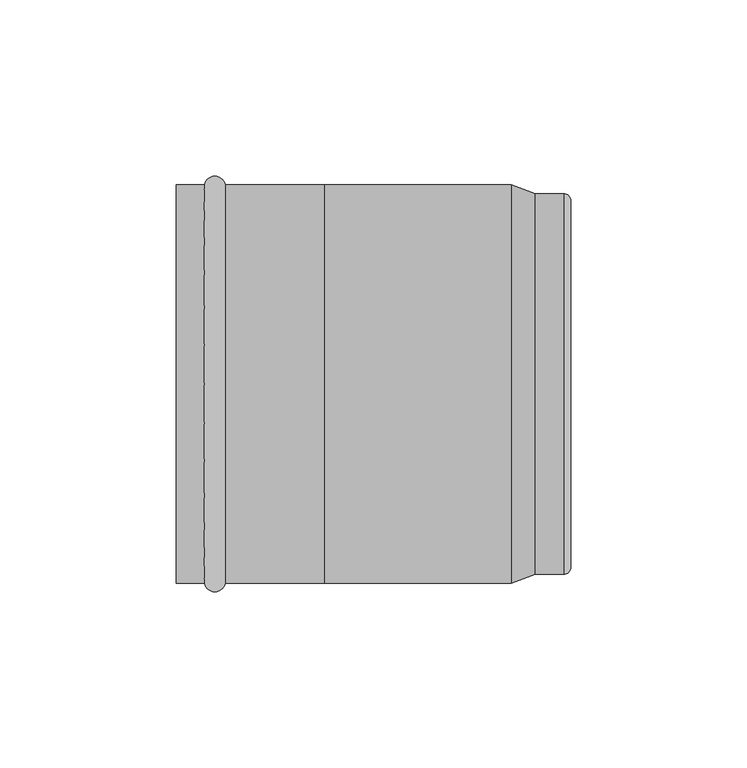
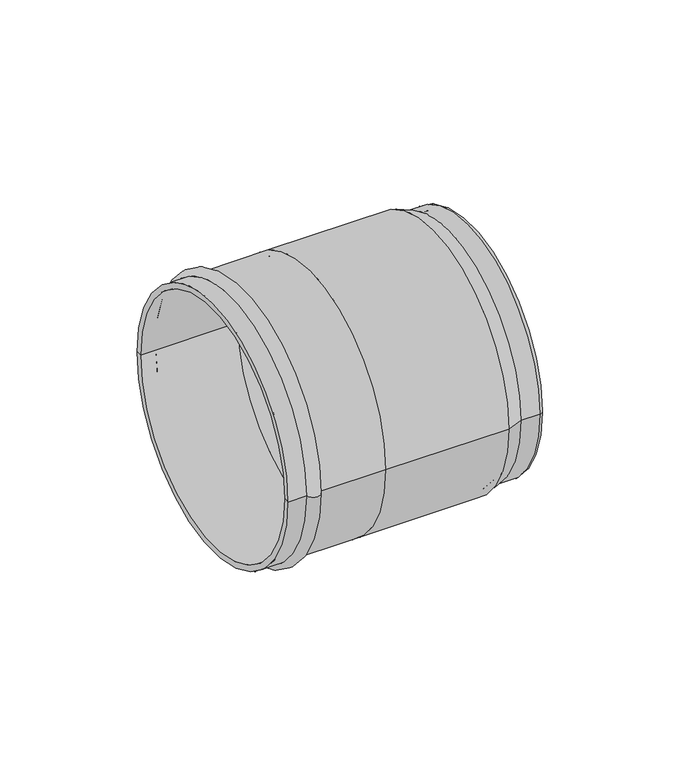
"""IFC4 building model written with IfcOpenShell, lengths in millimetres: pipe fitting geometry, VALTEC_VTi.961.I_Заглушка_нержавеющая : VTi.961.I."""

from ifc_helpers import new_model, si_unit, point, frame, origin, place, context, project, spatial, polyline, circle_curve, ellipse_curve, trimmed, source, transform, mapped, element, save
from ifc_brep_helpers import plane_surface, cylinder_surface, revolved_surface, advanced_brep


def pipe_fitting_0b047cda(model_context):
    return source(origin(), model_context, "Body", "AdvancedBrep", [
        advanced_brep(
        [(8.0419601, -56.5, 0.0), (8.0419601, 56.5, 0.0), (13.9580399, 56.5, 0.0), (13.9580399, -56.5, 0.0), (0.0, -56.5, 0.0), (0.0, 56.5, 0.0), (0.0, -54.0, 0.0), (0.0, 54.0, 0.0), (42.0, -54.0, 0.0), (42.0, 54.0, 0.0), (42.0, -56.5, 0.0), (42.0, 56.5, 0.0)],
        [
            (0, 1, circle_curve(frame((8.0419601, 0.0, 0.0), z_axis=(1.0, 0.0, 0.0), x_axis=(0.0, 1.0, 0.0)), 56.5)),
            (1, 2, circle_curve(frame((11.0, 56.0, 0.0), z_axis=(0.0, 0.0, -1.0), x_axis=(1.0, 0.0, 0.0)), 3.0)),
            (2, 3, circle_curve(frame((13.9580399, 0.0, 0.0), z_axis=(-1.0, 0.0, 0.0), x_axis=(0.0, 1.0, 0.0)), 56.5)),
            (3, 0, circle_curve(frame((11.0, -56.0, 0.0), z_axis=(0.0, 0.0, -1.0), x_axis=(1.0, 0.0, 0.0)), 3.0)),
            (1, 0, circle_curve(frame((8.0419601, 0.0, 0.0), z_axis=(1.0, 0.0, 0.0), x_axis=(0.0, 1.0, 0.0)), 56.5)),
            (3, 2, circle_curve(frame((13.9580399, 0.0, 0.0), z_axis=(-1.0, 0.0, 0.0), x_axis=(0.0, 1.0, 0.0)), 56.5)),
            (4, 5, circle_curve(frame((0.0, 0.0, 0.0), z_axis=(1.0, 0.0, 0.0), x_axis=(0.0, 1.0, 0.0)), 56.5)),
            (5, 1),
            (0, 4),
            (5, 4, circle_curve(frame((0.0, 0.0, 0.0), z_axis=(1.0, 0.0, 0.0), x_axis=(0.0, 1.0, 0.0)), 56.5)),
            (6, 7, circle_curve(frame((0.0, 0.0, 0.0), z_axis=(1.0, 0.0, 0.0), x_axis=(0.0, 1.0, 0.0)), 54.0)),
            (7, 5),
            (4, 6),
            (7, 6, circle_curve(frame((0.0, 0.0, 0.0), z_axis=(1.0, 0.0, 0.0), x_axis=(0.0, 1.0, 0.0)), 54.0)),
            (8, 9, circle_curve(frame((42.0, 0.0, 0.0), z_axis=(1.0, 0.0, 0.0), x_axis=(0.0, 1.0, 0.0)), 54.0)),
            (9, 7),
            (6, 8),
            (9, 8, circle_curve(frame((42.0, 0.0, 0.0), z_axis=(1.0, 0.0, 0.0), x_axis=(0.0, 1.0, 0.0)), 54.0)),
            (10, 11, circle_curve(frame((42.0, 0.0, 0.0), z_axis=(1.0, 0.0, 0.0), x_axis=(0.0, 1.0, 0.0)), 56.5)),
            (11, 9),
            (8, 10),
            (11, 10, circle_curve(frame((42.0, 0.0, 0.0), z_axis=(1.0, 0.0, 0.0), x_axis=(0.0, 1.0, 0.0)), 56.5)),
            (2, 11),
            (10, 3),
        ],
        [
            revolved_surface(trimmed(ellipse_curve(frame((11.0, 56.0, 0.0), z_axis=(0.0, 0.0, 1.0), x_axis=(1.0, 0.0, 0.0)), 3.0, 3.0), [point((13.9580399, 56.5, 0.0))], [point((8.0419601, 56.5, 0.0))], True, "CARTESIAN"), (-3.5364426, 0.0, 0.0), (-1.0, 0.0, 0.0)),
            cylinder_surface(frame((-3.5364426, 0.0, 0.0), z_axis=(-1.0, 0.0, 0.0), x_axis=(0.0, 1.0, 0.0)), 56.5),
            plane_surface(frame((0.0, 0.0, 0.0), z_axis=(-1.0, 0.0, 0.0), x_axis=(0.0, 1.0, 0.0))),
            revolved_surface(polyline([(0.0, 54.0, 0.0), (42.0, 54.0, 0.0)]), (-3.5364426, 0.0, 0.0), (-1.0, 0.0, 0.0)),
            plane_surface(frame((42.0, 0.0, 0.0), z_axis=(1.0, 0.0, 0.0), x_axis=(0.0, 1.0, 0.0))),
        ],
        [
            (0, [[1, 2, 3, 4]]),
            (0, [[5, -4, 6, -2]]),
            (1, [[7, 8, -1, 9]]),
            (1, [[10, -9, -5, -8]]),
            (2, [[11, 12, -7, 13]]),
            (2, [[14, -13, -10, -12]]),
            (3, [[15, 16, -11, 17]]),
            (3, [[18, -17, -14, -16]]),
            (4, [[19, 20, -15, 21]]),
            (4, [[22, -21, -18, -20]]),
            (1, [[-3, 23, -19, 24]]),
            (1, [[-6, -24, -22, -23]]),
        ],
    ),
        advanced_brep(
        [(42.0, -56.5, 0.0), (42.0, 56.5, 0.0), (95.1313065, 56.5, 0.0), (95.1313065, -56.5, 0.0), (95.1313065, -54.0, 0.0), (95.1313065, 54.0, 0.0), (42.0, 54.0, 0.0), (42.0, -54.0, 0.0), (109.5, -51.5, 0.0), (109.5, 51.5, 0.0), (102.0, 51.5, 0.0), (102.0, -51.5, 0.0), (109.5, 0.0, 0.0), (112.0, -52.0, 0.0), (112.0, 52.0, 0.0), (112.0, 0.0, 0.0), (102.0, -54.0, 0.0), (102.0, 54.0, 0.0), (110.0, 54.0, 0.0), (110.0, -54.0, 0.0)],
        [
            (0, 1, circle_curve(frame((42.0, 0.0, 0.0), z_axis=(1.0, 0.0, 0.0), x_axis=(0.0, 1.0, 0.0)), 56.5)),
            (1, 2),
            (2, 3, circle_curve(frame((95.1313065, 0.0, 0.0), z_axis=(-1.0, 0.0, 0.0), x_axis=(0.0, 1.0, 0.0)), 56.5)),
            (3, 0),
            (1, 0, circle_curve(frame((42.0, 0.0, 0.0), z_axis=(1.0, 0.0, 0.0), x_axis=(0.0, 1.0, 0.0)), 56.5)),
            (3, 2, circle_curve(frame((95.1313065, 0.0, 0.0), z_axis=(-1.0, 0.0, 0.0), x_axis=(0.0, 1.0, 0.0)), 56.5)),
            (4, 5, circle_curve(frame((95.1313065, 0.0, 0.0), z_axis=(1.0, 0.0, 0.0), x_axis=(0.0, 1.0, 0.0)), 54.0)),
            (5, 6),
            (6, 7, circle_curve(frame((42.0, 0.0, 0.0), z_axis=(-1.0, 0.0, 0.0), x_axis=(0.0, 1.0, 0.0)), 54.0)),
            (7, 4),
            (5, 4, circle_curve(frame((95.1313065, 0.0, 0.0), z_axis=(1.0, 0.0, 0.0), x_axis=(0.0, 1.0, 0.0)), 54.0)),
            (7, 6, circle_curve(frame((42.0, 0.0, 0.0), z_axis=(-1.0, 0.0, 0.0), x_axis=(0.0, 1.0, 0.0)), 54.0)),
            (6, 1),
            (0, 7),
            (8, 9, circle_curve(frame((109.5, 0.0, 0.0), z_axis=(1.0, 0.0, 0.0), x_axis=(0.0, 1.0, 0.0)), 51.5)),
            (9, 10),
            (10, 11, circle_curve(frame((102.0, 0.0, 0.0), z_axis=(-1.0, 0.0, 0.0), x_axis=(0.0, 1.0, 0.0)), 51.5)),
            (11, 8),
            (9, 8, circle_curve(frame((109.5, 0.0, 0.0), z_axis=(1.0, 0.0, 0.0), x_axis=(0.0, 1.0, 0.0)), 51.5)),
            (11, 10, circle_curve(frame((102.0, 0.0, 0.0), z_axis=(-1.0, 0.0, 0.0), x_axis=(0.0, 1.0, 0.0)), 51.5)),
            (12, 9),
            (8, 12),
            (13, 14, circle_curve(frame((112.0, 0.0, 0.0), z_axis=(1.0, 0.0, 0.0), x_axis=(0.0, 1.0, 0.0)), 52.0)),
            (14, 15),
            (15, 13),
            (14, 13, circle_curve(frame((112.0, 0.0, 0.0), z_axis=(1.0, 0.0, 0.0), x_axis=(0.0, 1.0, 0.0)), 52.0)),
            (16, 17, circle_curve(frame((102.0, 0.0, 0.0), z_axis=(1.0, 0.0, 0.0), x_axis=(0.0, 1.0, 0.0)), 54.0)),
            (17, 18),
            (18, 19, circle_curve(frame((110.0, 0.0, 0.0), z_axis=(-1.0, 0.0, 0.0), x_axis=(0.0, 1.0, 0.0)), 54.0)),
            (19, 16),
            (17, 16, circle_curve(frame((102.0, 0.0, 0.0), z_axis=(1.0, 0.0, 0.0), x_axis=(0.0, 1.0, 0.0)), 54.0)),
            (19, 18, circle_curve(frame((110.0, 0.0, 0.0), z_axis=(-1.0, 0.0, 0.0), x_axis=(0.0, 1.0, 0.0)), 54.0)),
            (2, 17),
            (16, 3),
            (10, 5),
            (4, 11),
            (18, 14, circle_curve(frame((110.0, 52.0, 0.0), z_axis=(0.0, 0.0, -1.0), x_axis=(1.0, 0.0, 0.0)), 2.0)),
            (13, 19, circle_curve(frame((110.0, -52.0, 0.0), z_axis=(0.0, 0.0, -1.0), x_axis=(1.0, 0.0, 0.0)), 2.0)),
        ],
        [
            cylinder_surface(frame((-40.0167378, 0.0, 0.0), z_axis=(-1.0, 0.0, 0.0), x_axis=(0.0, 1.0, 0.0)), 56.5),
            revolved_surface(polyline([(42.0, 54.0, 0.0), (95.13130649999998, 54.0, 0.0)]), (-40.0167378, 0.0, 0.0), (-1.0, 0.0, 0.0)),
            plane_surface(frame((42.0, 0.0, 0.0), z_axis=(-1.0, 0.0, 0.0), x_axis=(0.0, 1.0, 0.0))),
            revolved_surface(polyline([(101.99999999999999, 51.5, 0.0), (109.49999999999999, 51.5, 0.0)]), (-40.0167378, 0.0, 0.0), (-1.0, 0.0, 0.0)),
            plane_surface(frame((109.5, 0.0, 0.0), z_axis=(-1.0, 0.0, 0.0), x_axis=(0.0, 1.0, 0.0))),
            plane_surface(frame((112.0, 0.0, 0.0), z_axis=(1.0, 0.0, 0.0), x_axis=(0.0, 1.0, 0.0))),
            cylinder_surface(frame((-40.0167378, 0.0, 0.0), z_axis=(-1.0, 0.0, 0.0), x_axis=(0.0, 1.0, 0.0)), 54.0),
            revolved_surface(polyline([(102.0, 54.0, 0.0), (95.1313065, 56.5, 0.0)]), (-40.0167378, 0.0, 0.0), (-1.0, 0.0, 0.0)),
            revolved_surface(polyline([(95.1313065, 54.0, 0.0), (102.0, 51.5, 0.0)]), (-40.0167378, 0.0, 0.0), (-1.0, 0.0, 0.0)),
            revolved_surface(trimmed(ellipse_curve(frame((110.0, 52.0, 0.0), z_axis=(0.0, 0.0, 1.0), x_axis=(1.0, 0.0, 0.0)), 2.0, 2.0), [point((112.0, 52.0, 0.0))], [point((110.0, 54.0, 0.0))], True, "CARTESIAN"), (-40.0167378, 0.0, 0.0), (-1.0, 0.0, 0.0)),
        ],
        [
            (0, [[1, 2, 3, 4]]),
            (0, [[5, -4, 6, -2]]),
            (1, [[7, 8, 9, 10]]),
            (1, [[11, -10, 12, -8]]),
            (2, [[-9, 13, -1, 14]]),
            (2, [[-12, -14, -5, -13]]),
            (3, [[15, 16, 17, 18]]),
            (3, [[19, -18, 20, -16]]),
            (4, [[21, -15, 22]]),
            (4, [[-22, -19, -21]]),
            (5, [[23, 24, 25]]),
            (5, [[26, -25, -24]]),
            (6, [[27, 28, 29, 30]]),
            (6, [[31, -30, 32, -28]]),
            (7, [[-3, 33, -27, 34]]),
            (7, [[-6, -34, -31, -33]]),
            (8, [[-17, 35, -7, 36]]),
            (8, [[-20, -36, -11, -35]]),
            (9, [[-29, 37, -23, 38]]),
            (9, [[-32, -38, -26, -37]]),
        ],
    ),
    ])


if __name__ == "__main__":
    model = new_model("IFC4")
    model_context = context("Model", 3, world=origin())
    ifc_project = project(units=[si_unit("LENGTHUNIT", "METRE", prefix="MILLI")], contexts=[model_context])
    site = spatial("IfcSite", under=ifc_project)
    building = spatial("IfcBuilding", under=site)
    placement = place(None, origin())
    pipe_fitting_shape = pipe_fitting_0b047cda(model_context)
    element("IfcPipeFitting", 1, ObjectType="VALTEC_VTi.961.I_Заглушка_нержавеющая : VTi.961.I", at=placement, inside=building, context=model_context, shape_type="MappedRepresentation", body=[
        mapped(pipe_fitting_shape, transform((0.0, 0.0, 0.0), x_axis=(1.0, 0.0, 0.0), y_axis=(0.0, 1.0, 0.0), z_axis=(0.0, 0.0, 1.0))),
    ])
    save(model, "model.ifc")
